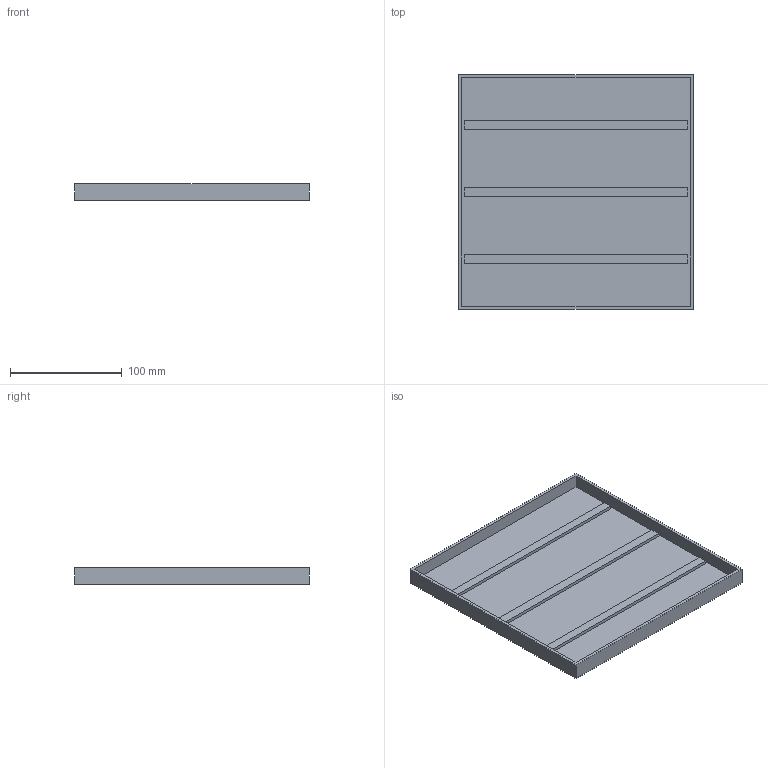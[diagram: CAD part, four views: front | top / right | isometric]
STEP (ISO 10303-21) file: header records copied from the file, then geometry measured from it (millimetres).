
FILE_DESCRIPTION(('Open CASCADE Model'),'2;1');
FILE_NAME('Open CASCADE Shape Model','2026-07-25T17:37:02',('Author'),( 'Open CASCADE'),'Open CASCADE STEP processor 7.9','build123d', 'Unknown');
FILE_SCHEMA(('AUTOMOTIVE_DESIGN { 1 0 10303 214 1 1 1 1 }'));
Length unit declared in the file: millimetre
Products named in the file (1): COMPOUND
Bounding box: 210 x 210 x 15 mm (x, y, z)
Volume: 176485.8 mm3; surface area: 114471.3 mm2
Topology: 1 solids, 1 shells, 572 faces, 1566 edges, 1044 vertices
Faces by surface type: extrusion 359, plane 213
Entity records: 44999 total; most frequent: CARTESIAN_POINT 17394, DIRECTION 3396, ORIENTED_EDGE 3132, PCURVE 3132, DEFINITIONAL_REPRESENTATION 3132, VECTOR 2968, LINE 2609, B_SPLINE_CURVE_WITH_KNOTS 2448
